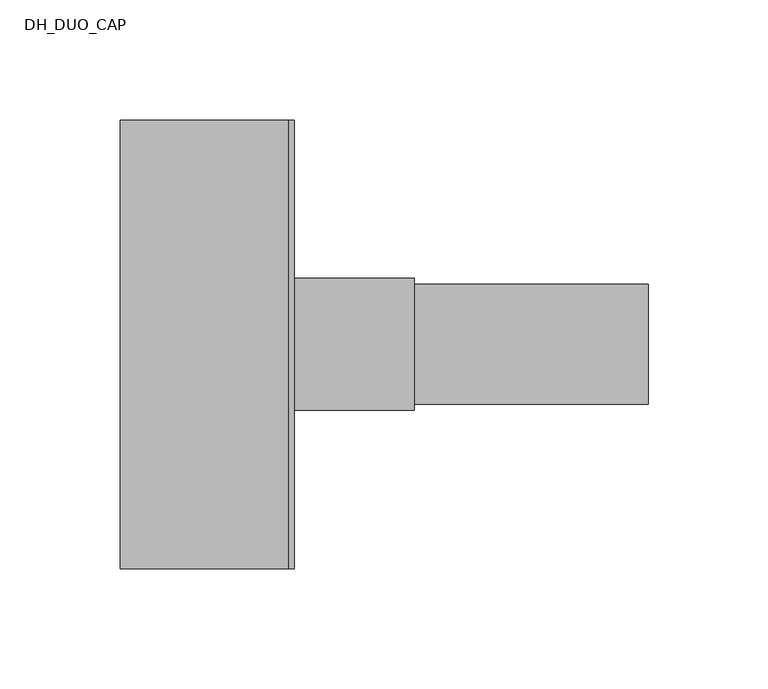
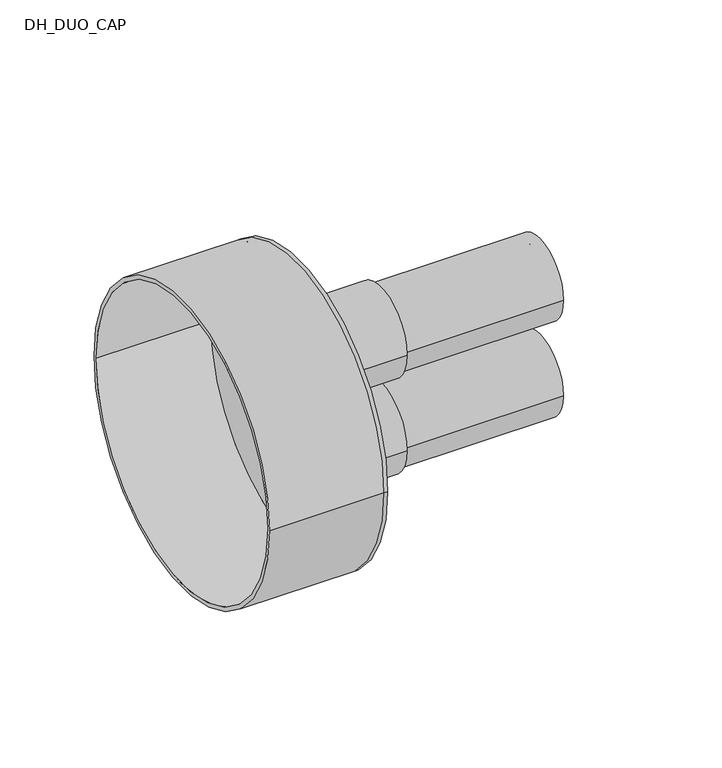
"""IFC4 building model written with IfcOpenShell, lengths in millimetres: pipe fitting geometry, DH_DUO_CAP : RAUTHERMEX DUO + 7.4 Heating - Rubber Cap."""

import ifcopenshell
import ifcopenshell.guid

model = None  # the IFC model being written
_history = None  # IfcOwnerHistory: only IFC2X3 demands one
_inside = {}  # id of a spatial element -> (the spatial element, [elements in it])
_under = {}  # id of a project, library or spatial element -> (it, [spatial elements below it])
_declared = {}  # id of a project -> (the project, [libraries it declares])
_typed = {}  # id of a type object -> (the type object, [elements of that type])
_made_of = {}  # id of a material, layer set ... -> (it, [elements and type objects made of it])


def new_model(schema):
    """Start an empty IFC model of exactly this schema.

    Asked for "IFC4X3", IfcOpenShell would pick the latest addendum, in which some entities
    have other attributes; the version numbers below select the first issue.
    IFC2X3 requires an IfcOwnerHistory on every rooted entity: one is made here for all.
    """
    global model, _history
    if schema == "IFC4X3":
        model = ifcopenshell.file(schema_version=(4, 3, 0, 0))
    else:
        model = ifcopenshell.file(schema=schema)
    _inside.clear()
    _under.clear()
    _declared.clear()
    _typed.clear()
    _made_of.clear()
    _history = None
    if model.schema == "IFC2X3":
        org = make("IfcOrganization", Name="unknown")
        user = make(
            "IfcPersonAndOrganization",
            ThePerson=make("IfcPerson", FamilyName="unknown"),
            TheOrganization=org,
        )
        app = make(
            "IfcApplication",
            ApplicationDeveloper=org,
            Version="unknown",
            ApplicationFullName="unknown",
            ApplicationIdentifier="unknown",
        )
        _history = make(
            "IfcOwnerHistory",
            OwningUser=user,
            OwningApplication=app,
            ChangeAction="ADDED",
            CreationDate=0,
        )
    return model


def make(cls, **values):
    """One entity of the class cls with the attributes given. An attribute that is None is left unset."""
    return model.create_entity(
        cls, **{name: value for name, value in values.items() if value is not None}
    )


def rooted(cls, **values):
    """An entity with a GlobalId (a new one), such as an element, a storey or a relation."""
    return make(cls, GlobalId=ifcopenshell.guid.new(), OwnerHistory=_history, **values)


def si_unit(unit_type, name, prefix=None):
    """IfcSIUnit, for example si_unit("LENGTHUNIT", "METRE", prefix="MILLI")."""
    return make("IfcSIUnit", UnitType=unit_type, Prefix=prefix, Name=name)


def assignment(units):
    """IfcUnitAssignment: the units of a project."""
    return None if units is None else make("IfcUnitAssignment", Units=units)


def point(xyz):
    """IfcCartesianPoint."""
    return None if xyz is None else make("IfcCartesianPoint", Coordinates=xyz)


def direction(xyz):
    """IfcDirection."""
    return None if xyz is None else make("IfcDirection", DirectionRatios=xyz)


def frame(location, z_axis=None, x_axis=None):
    """IfcAxis2Placement3D, a coordinate frame: its origin and axes. An axis left out is left unset."""
    return make(
        "IfcAxis2Placement3D",
        Location=point(location),
        Axis=direction(z_axis),
        RefDirection=direction(x_axis),
    )


def frame_2d(location, x_axis=None):
    """IfcAxis2Placement2D, a coordinate frame in the plane: its origin and x axis."""
    return make(
        "IfcAxis2Placement2D", Location=point(location), RefDirection=direction(x_axis)
    )


def origin():
    """The frame at (0, 0, 0) with its axes left unset."""
    return frame((0.0, 0.0, 0.0))


def place(relative_to, where):
    """IfcLocalPlacement: puts the frame where relative to a parent placement (None: the world)."""
    return make(
        "IfcLocalPlacement", PlacementRelTo=relative_to, RelativePlacement=where
    )


def context(
    kind, dimensions, precision=None, world=None, true_north=None, identifier=None
):
    """IfcGeometricRepresentationContext, for example the 3D "Model" context."""
    return make(
        "IfcGeometricRepresentationContext",
        ContextIdentifier=identifier,
        ContextType=kind,
        CoordinateSpaceDimension=dimensions,
        Precision=precision,
        WorldCoordinateSystem=world,
        TrueNorth=true_north,
    )


def project(units=None, contexts=None):
    """IfcProject with its units and contexts."""
    return rooted(
        "IfcProject",
        Name="project",
        RepresentationContexts=contexts,
        UnitsInContext=assignment(units),
    )


def spatial(cls, under=None, at=None, **own):
    """A site, building, storey or space (cls), placed at a placement, below another one or the project."""
    s = rooted(cls, ObjectPlacement=at, **own)
    if under is not None:
        _under.setdefault(under.id(), (under, []))[1].append(s)
    return s


def polyline(points):
    """IfcPolyline through the points."""
    return make("IfcPolyline", Points=[point(p) for p in points])


def circle_curve(where, radius):
    """IfcCircle in the frame where."""
    return make("IfcCircle", Position=where, Radius=radius)


def trimmed(basis, trim1, trim2, sense, master):
    """IfcTrimmedCurve: the piece of a basis curve between two trims."""
    return make(
        "IfcTrimmedCurve",
        BasisCurve=basis,
        Trim1=trim1,
        Trim2=trim2,
        SenseAgreement=sense,
        MasterRepresentation=master,
    )


def segment(curve, same_sense, transition):
    """IfcCompositeCurveSegment."""
    return make(
        "IfcCompositeCurveSegment",
        Transition=transition,
        SameSense=same_sense,
        ParentCurve=curve,
    )


def composite_curve(segments, self_intersect=None):
    """IfcCompositeCurve: segments joined end to end."""
    return make("IfcCompositeCurve", Segments=segments, SelfIntersect=self_intersect)


def outline(outer, holes=None, kind="AREA"):
    """IfcArbitraryClosedProfileDef: a profile drawn as a closed curve; with holes, ...WithVoids."""
    if holes is None:
        return make("IfcArbitraryClosedProfileDef", ProfileType=kind, OuterCurve=outer)
    return make(
        "IfcArbitraryProfileDefWithVoids",
        ProfileType=kind,
        OuterCurve=outer,
        InnerCurves=holes,
    )


def extrude(swept, where, along, depth):
    """IfcExtrudedAreaSolid: the profile swept, set in the frame where, extruded along a direction by depth."""
    return make(
        "IfcExtrudedAreaSolid",
        SweptArea=swept,
        Position=where,
        ExtrudedDirection=direction(along),
        Depth=depth,
    )


def shape(context_of_items, identifier, shape_type, items):
    """IfcShapeRepresentation: the items that make up one representation, for example the "Body"."""
    return make(
        "IfcShapeRepresentation",
        ContextOfItems=context_of_items,
        RepresentationIdentifier=identifier,
        RepresentationType=shape_type,
        Items=items,
    )


def source(mapping_origin, context_of_items, identifier, shape_type, items):
    """IfcRepresentationMap: a shape defined once, which mapped items show again and again."""
    return make(
        "IfcRepresentationMap",
        MappingOrigin=mapping_origin,
        MappedRepresentation=shape(context_of_items, identifier, shape_type, items),
    )


def transform(
    local_origin,
    x_axis=None,
    y_axis=None,
    z_axis=None,
    scale=None,
    scale2=None,
    scale3=None,
    uniform=True,
):
    """IfcCartesianTransformationOperator3D, or its non-uniform kind. x_axis, y_axis, z_axis: its Axis1, 2, 3."""
    if uniform:
        return make(
            "IfcCartesianTransformationOperator3D",
            Axis1=direction(x_axis),
            Axis2=direction(y_axis),
            LocalOrigin=point(local_origin),
            Scale=scale,
            Axis3=direction(z_axis),
        )
    return make(
        "IfcCartesianTransformationOperator3DnonUniform",
        Axis1=direction(x_axis),
        Axis2=direction(y_axis),
        LocalOrigin=point(local_origin),
        Scale=scale,
        Axis3=direction(z_axis),
        Scale2=scale2,
        Scale3=scale3,
    )


def mapped(mapping_source, mapping_target):
    """IfcMappedItem: shows the shape of a source again, moved by a transform."""
    return make(
        "IfcMappedItem", MappingSource=mapping_source, MappingTarget=mapping_target
    )


def made_of(thing, what):
    """Note that an element or type object is made of a material, layer set ...; save() writes the relation."""
    if what is not None:
        _made_of.setdefault(what.id(), (what, []))[1].append(thing)
    return thing


def element(
    cls,
    number,
    at=None,
    inside=None,
    cuts=None,
    type_object=None,
    material=None,
    context=None,
    identifier="Body",
    shape_type=None,
    held_by="IfcProductDefinitionShape",
    body=None,
    shapes=None,
    **own,
):
    """One element of the class cls, such as IfcWall. Its Tag is "e" and its number.

    at: its placement. inside: the storey or other place that contains it. cuts: it is an
    opening in that element (IfcRelVoidsElement). A single representation is given by context,
    identifier, shape_type and body (its items); several are given by shapes. held_by: the class
    of the entity that holds the representations. save() writes the other relations.
    """
    e = rooted(cls, Tag="e%d" % number, ObjectPlacement=at, **own)
    if body is not None:
        shapes = [shape(context, identifier, shape_type, body)]
    if shapes is not None:
        e.Representation = make(held_by, Representations=shapes)
    if inside is not None:
        _inside.setdefault(inside.id(), (inside, []))[1].append(e)
    if cuts is not None:
        rooted(
            "IfcRelVoidsElement", RelatingBuildingElement=cuts, RelatedOpeningElement=e
        )
    if type_object is not None:
        _typed.setdefault(type_object.id(), (type_object, []))[1].append(e)
    return made_of(e, material)


def aggregate(whole, parts):
    """IfcRelAggregates: a whole, such as a stair, and the parts it consists of."""
    return rooted("IfcRelAggregates", RelatingObject=whole, RelatedObjects=parts)


def save(model, path):
    """Write the relations noted so far, then the file.

    IfcRelAggregates (storeys below a building ...), IfcRelContainedInSpatialStructure (elements
    in a storey), IfcRelDefinesByType, IfcRelAssociatesMaterial and IfcRelDeclares: one each for
    every whole, place, type object, material and project.
    """
    for whole, parts in _under.values():
        aggregate(whole, parts)
    for where, things in _inside.values():
        rooted(
            "IfcRelContainedInSpatialStructure",
            RelatedElements=things,
            RelatingStructure=where,
        )
    for kind, things in _typed.values():
        rooted("IfcRelDefinesByType", RelatedObjects=things, RelatingType=kind)
    for what, things in _made_of.values():
        rooted("IfcRelAssociatesMaterial", RelatedObjects=things, RelatingMaterial=what)
    for by, libraries in _declared.values():
        rooted("IfcRelDeclares", RelatingContext=by, RelatedDefinitions=libraries)
    model.write(path)


def plane_surface(at):
    """IfcPlane: the flat surface through the origin of the frame at, square to its z axis."""
    return make("IfcPlane", Position=at)


def cylinder_surface(at, radius):
    """IfcCylindricalSurface: all points at the distance radius from the z axis of the frame at."""
    return make("IfcCylindricalSurface", Position=at, Radius=radius)


def revolved_surface(curve, axis_point, axis_direction):
    """IfcSurfaceOfRevolution: the curve turned about the line through axis_point along axis_direction."""
    return make(
        "IfcSurfaceOfRevolution",
        SweptCurve=make("IfcArbitraryOpenProfileDef", ProfileType="CURVE", Curve=curve),
        AxisPosition=make("IfcAxis1Placement", Location=point(axis_point), Axis=direction(axis_direction)),
    )


def advanced_brep(points, edges, surfaces, faces):
    """IfcAdvancedBrep: a solid bounded by faces that lie on surfaces and meet in shared edges.

    An edge is (start, end): straight between two places in points (the first is 0);
    or (start, end, curve); or (start, end, curve, False) where it runs against its curve.
    A face is (place in surfaces, loops), or (place, loops, False) where it looks against
    its surface's normal. A loop lists edges by number (the first is 1), with a minus sign
    where the edge is run from its end to its start. The first loop is the outer one.
    """
    corners = [point(p) for p in points]
    vertices = [make("IfcVertexPoint", VertexGeometry=c) for c in corners]
    made = []
    for start, end, *more in edges:
        made.append(
            make(
                "IfcEdgeCurve",
                EdgeStart=vertices[start],
                EdgeEnd=vertices[end],
                EdgeGeometry=more[0] if more else make("IfcPolyline", Points=[corners[start], corners[end]]),
                SameSense=more[1] if len(more) > 1 else True,
            )
        )
    hull = []
    for where, loops, *sense in faces:
        bounds = []
        for j, loop in enumerate(loops):
            ring = [make("IfcOrientedEdge", EdgeElement=made[abs(k) - 1], Orientation=k > 0) for k in loop]
            bounds.append(
                make(
                    "IfcFaceOuterBound" if j == 0 else "IfcFaceBound",
                    Bound=make("IfcEdgeLoop", EdgeList=ring),
                    Orientation=True,
                )
            )
        hull.append(make("IfcAdvancedFace", Bounds=bounds, FaceSurface=surfaces[where], SameSense=sense[0] if sense else True))
    return make("IfcAdvancedBrep", Outer=make("IfcClosedShell", CfsFaces=hull))


def dh_duo_cap_8982807d(model_context):
    return source(origin(), model_context, "Body", "SolidModel", [
        extrude(outline(composite_curve([segment(trimmed(circle_curve(frame_2d((0.0, -31.0)), 25.0), [point((-25.0, -31.0))], [point((25.0, -31.0))], False, "CARTESIAN"), True, "CONTINUOUS"), segment(trimmed(circle_curve(frame_2d((0.0, -31.0)), 25.0), [point((25.0, -31.0))], [point((-25.0, -31.0))], False, "CARTESIAN"), True, "CONTINUOUS")], self_intersect=False), holes=[composite_curve([segment(trimmed(circle_curve(frame_2d((0.0, -31.0)), 18.1), [point((-18.1, -31.0))], [point((18.1, -31.0))], True, "CARTESIAN"), True, "CONTINUOUS"), segment(trimmed(circle_curve(frame_2d((0.0, -31.0)), 18.1), [point((18.1, -31.0))], [point((-18.1, -31.0))], True, "CARTESIAN"), True, "CONTINUOUS")], self_intersect=False)]), frame((0.0, 0.0, 0.0), z_axis=(1.0, 0.0, 0.0), x_axis=(0.0, 1.0, 0.0)), (0.0, 0.0, 1.0), 150.0),
        extrude(outline(composite_curve([segment(trimmed(circle_curve(frame_2d((0.0, 31.0)), 25.0), [point((-25.0, 31.0))], [point((25.0, 31.0))], False, "CARTESIAN"), True, "CONTINUOUS"), segment(trimmed(circle_curve(frame_2d((0.0, 31.0)), 25.0), [point((25.0, 31.0))], [point((-25.0, 31.0))], False, "CARTESIAN"), True, "CONTINUOUS")], self_intersect=False), holes=[composite_curve([segment(trimmed(circle_curve(frame_2d((0.0, 31.0)), 18.1), [point((-18.1, 31.0))], [point((18.1, 31.0))], True, "CARTESIAN"), True, "CONTINUOUS"), segment(trimmed(circle_curve(frame_2d((0.0, 31.0)), 18.1), [point((18.1, 31.0))], [point((-18.1, 31.0))], True, "CARTESIAN"), True, "CONTINUOUS")], self_intersect=False)]), frame((0.0, 0.0, 0.0), z_axis=(1.0, 0.0, 0.0), x_axis=(0.0, 1.0, 0.0)), (0.0, 0.0, 1.0), 150.0),
        advanced_brep(
        [(-70.0, -93.5, 0.0), (-70.0, 93.5, 0.0), (-70.0, -91.0, 0.0), (-70.0, 91.0, 0.0), (0.0, -91.0, 0.0), (0.0, 91.0, 0.0), (0.0, -93.5, 0.0), (0.0, 93.5, 0.0), (0.0, 25.0, 31.0), (0.0, -25.0, 31.0), (0.0, 25.0, -31.0), (0.0, -25.0, -31.0), (2.5, -93.5, 0.0), (2.5, 93.5, 0.0), (2.5, -25.0, 31.0), (2.5, 25.0, 31.0), (2.5, -25.0, -31.0), (2.5, 25.0, -31.0)],
        [
            (0, 1, circle_curve(frame((-70.0, 0.0, 0.0), z_axis=(-1.0, 0.0, 0.0), x_axis=(0.0, 1.0, 0.0)), 93.5)),
            (1, 0, circle_curve(frame((-70.0, 0.0, 0.0), z_axis=(-1.0, 0.0, 0.0), x_axis=(0.0, 1.0, 0.0)), 93.5)),
            (2, 3, circle_curve(frame((-70.0, 0.0, 0.0), z_axis=(1.0, 0.0, 0.0), x_axis=(0.0, 1.0, 0.0)), 91.0)),
            (3, 2, circle_curve(frame((-70.0, 0.0, 0.0), z_axis=(1.0, 0.0, 0.0), x_axis=(0.0, 1.0, 0.0)), 91.0)),
            (2, 4),
            (4, 5, circle_curve(frame((0.0, 0.0, 0.0), z_axis=(1.0, 0.0, 0.0), x_axis=(0.0, 1.0, 0.0)), 91.0)),
            (5, 3),
            (5, 4, circle_curve(frame((0.0, 0.0, 0.0), z_axis=(1.0, 0.0, 0.0), x_axis=(0.0, 1.0, 0.0)), 91.0)),
            (0, 6),
            (6, 7, circle_curve(frame((0.0, 0.0, 0.0), z_axis=(-1.0, 0.0, 0.0), x_axis=(0.0, 1.0, 0.0)), 93.5)),
            (7, 1),
            (7, 6, circle_curve(frame((0.0, 0.0, 0.0), z_axis=(-1.0, 0.0, 0.0), x_axis=(0.0, 1.0, 0.0)), 93.5)),
            (8, 9, circle_curve(frame((0.0, 0.0, 31.0), z_axis=(1.0, 0.0, 0.0), x_axis=(0.0, 1.0, 0.0)), 25.0)),
            (9, 8, circle_curve(frame((0.0, 0.0, 31.0), z_axis=(1.0, 0.0, 0.0), x_axis=(0.0, 1.0, 0.0)), 25.0)),
            (10, 11, circle_curve(frame((0.0, 0.0, -31.0), z_axis=(1.0, 0.0, 0.0), x_axis=(0.0, 1.0, 0.0)), 25.0)),
            (11, 10, circle_curve(frame((0.0, 0.0, -31.0), z_axis=(1.0, 0.0, 0.0), x_axis=(0.0, 1.0, 0.0)), 25.0)),
            (12, 13, circle_curve(frame((2.5, 0.0, 0.0), z_axis=(1.0, 0.0, 0.0), x_axis=(0.0, 1.0, 0.0)), 93.5)),
            (13, 12, circle_curve(frame((2.5, 0.0, 0.0), z_axis=(1.0, 0.0, 0.0), x_axis=(0.0, 1.0, 0.0)), 93.5)),
            (14, 15, circle_curve(frame((2.5, 0.0, 31.0), z_axis=(-1.0, 0.0, 0.0), x_axis=(0.0, 1.0, 0.0)), 25.0)),
            (15, 14, circle_curve(frame((2.5, 0.0, 31.0), z_axis=(-1.0, 0.0, 0.0), x_axis=(0.0, 1.0, 0.0)), 25.0)),
            (16, 17, circle_curve(frame((2.5, 0.0, -31.0), z_axis=(-1.0, 0.0, 0.0), x_axis=(0.0, 1.0, 0.0)), 25.0)),
            (17, 16, circle_curve(frame((2.5, 0.0, -31.0), z_axis=(-1.0, 0.0, 0.0), x_axis=(0.0, 1.0, 0.0)), 25.0)),
            (13, 7),
            (6, 12),
            (8, 15),
            (14, 9),
            (10, 17),
            (16, 11),
        ],
        [
            plane_surface(frame((-70.0, 0.0, 0.0), z_axis=(-1.0, 0.0, 0.0), x_axis=(0.0, 0.0, 1.0))),
            revolved_surface(polyline([(0.0, 91.0, 0.0), (-70.0, 91.0, 0.0)]), (-70.0, 0.0, 0.0), (1.0, 0.0, 0.0)),
            cylinder_surface(frame((-70.0, 0.0, 0.0), z_axis=(-1.0, 0.0, 0.0), x_axis=(0.0, 1.0, 0.0)), 93.5),
            plane_surface(frame((0.0, 0.0, 0.0), z_axis=(-1.0, 0.0, 0.0), x_axis=(0.0, 0.0, 1.0))),
            plane_surface(frame((2.5, 0.0, 0.0), z_axis=(1.0, 0.0, 0.0), x_axis=(0.0, 0.0, 1.0))),
            cylinder_surface(frame((0.0, 0.0, 0.0), z_axis=(-1.0, 0.0, 0.0), x_axis=(0.0, 1.0, 0.0)), 93.5),
            revolved_surface(polyline([(0.0, 25.0, 31.0), (2.5, 25.0, 31.0)]), (0.0, 0.0, 31.0), (-1.0, 0.0, 0.0)),
            revolved_surface(polyline([(0.0, 25.0, -31.0), (2.5, 25.0, -31.0)]), (0.0, 0.0, -31.0), (-1.0, 0.0, 0.0)),
        ],
        [
            (0, [[1, 2], [3, 4]]),
            (1, [[-3, 5, 6, 7]]),
            (1, [[-4, -7, 8, -5]]),
            (2, [[-1, 9, 10, 11]]),
            (2, [[-2, -11, 12, -9]]),
            (3, [[-6, -8], [13, 14], [15, 16]]),
            (4, [[17, 18], [19, 20], [21, 22]]),
            (5, [[-18, 23, -10, 24]]),
            (5, [[-17, -24, -12, -23]]),
            (6, [[25, -19, 26, -13]]),
            (6, [[-25, -14, -26, -20]]),
            (7, [[27, -21, 28, -15]]),
            (7, [[-27, -16, -28, -22]]),
        ],
    ),
        extrude(outline(composite_curve([segment(trimmed(circle_curve(frame_2d((0.0, -31.0)), 27.5), [point((-27.5, -31.0))], [point((27.5, -31.0))], False, "CARTESIAN"), True, "CONTINUOUS"), segment(trimmed(circle_curve(frame_2d((0.0, -31.0)), 27.5), [point((27.5, -31.0))], [point((-27.5, -31.0))], False, "CARTESIAN"), True, "CONTINUOUS")], self_intersect=False), holes=[composite_curve([segment(trimmed(circle_curve(frame_2d((0.0, -31.0)), 25.0), [point((-25.0, -31.0))], [point((25.0, -31.0))], True, "CARTESIAN"), True, "CONTINUOUS"), segment(trimmed(circle_curve(frame_2d((0.0, -31.0)), 25.0), [point((25.0, -31.0))], [point((-25.0, -31.0))], True, "CARTESIAN"), True, "CONTINUOUS")], self_intersect=False)]), frame((2.5, 0.0, 0.0), z_axis=(1.0, 0.0, 0.0), x_axis=(0.0, 1.0, 0.0)), (0.0, 0.0, 1.0), 50.0),
        extrude(outline(composite_curve([segment(trimmed(circle_curve(frame_2d((0.0, 31.0)), 27.5), [point((-27.5, 31.0))], [point((27.5, 31.0))], False, "CARTESIAN"), True, "CONTINUOUS"), segment(trimmed(circle_curve(frame_2d((0.0, 31.0)), 27.5), [point((27.5, 31.0))], [point((-27.5, 31.0))], False, "CARTESIAN"), True, "CONTINUOUS")], self_intersect=False), holes=[composite_curve([segment(trimmed(circle_curve(frame_2d((0.0, 31.0)), 25.0), [point((-25.0, 31.0))], [point((25.0, 31.0))], True, "CARTESIAN"), True, "CONTINUOUS"), segment(trimmed(circle_curve(frame_2d((0.0, 31.0)), 25.0), [point((25.0, 31.0))], [point((-25.0, 31.0))], True, "CARTESIAN"), True, "CONTINUOUS")], self_intersect=False)]), frame((2.5, 0.0, 0.0), z_axis=(1.0, 0.0, 0.0), x_axis=(0.0, 1.0, 0.0)), (0.0, 0.0, 1.0), 50.0),
    ])


if __name__ == "__main__":
    model = new_model("IFC4")
    model_context = context("Model", 3, world=origin())
    ifc_project = project(units=[si_unit("LENGTHUNIT", "METRE", prefix="MILLI")], contexts=[model_context])
    site = spatial("IfcSite", under=ifc_project)
    building = spatial("IfcBuilding", under=site)
    placement = place(None, origin())
    dh_duo_cap_shape = dh_duo_cap_8982807d(model_context)
    element("IfcPipeFitting", 1, ObjectType="DH_DUO_CAP : RAUTHERMEX DUO + 7.4 Heating - Rubber Cap", at=placement, inside=building, context=model_context, shape_type="MappedRepresentation", body=[
        mapped(dh_duo_cap_shape, transform((0.0, 0.0, 0.0), x_axis=(1.0, 0.0, 0.0), y_axis=(0.0, 1.0, 0.0), z_axis=(0.0, 0.0, 1.0))),
    ])
    save(model, "model.ifc")
